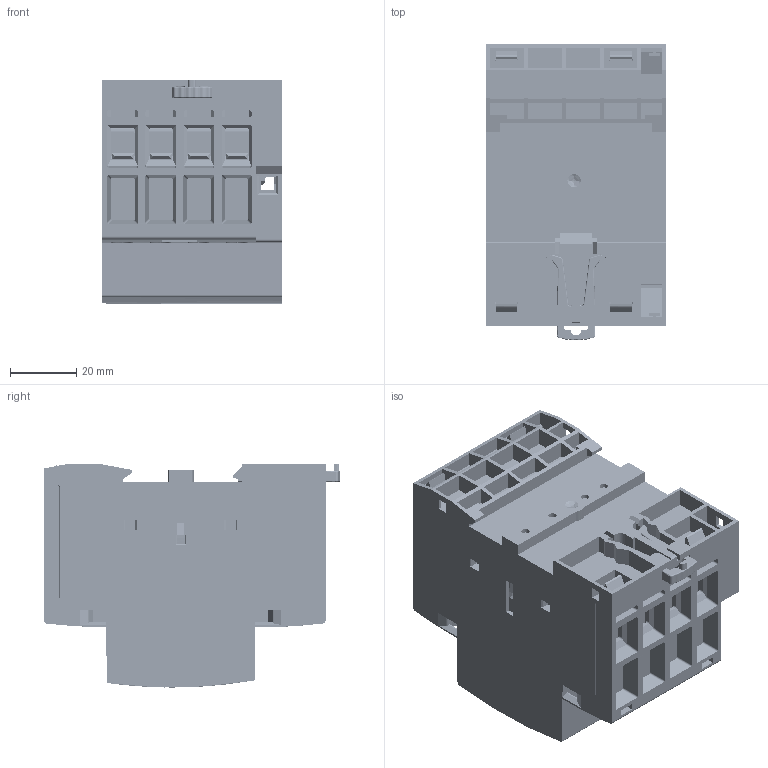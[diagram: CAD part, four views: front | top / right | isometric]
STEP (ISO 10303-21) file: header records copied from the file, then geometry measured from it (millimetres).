
FILE_DESCRIPTION (( 'STEP AP203' ), '1' );
FILE_NAME ('YCCH6-40-63-4P.STEP', '2025-07-31T01:10:10', ( '' ), ( '' ), 'SwSTEP 2.0', 'SolidWorks 2021', '' );
FILE_SCHEMA (( 'CONFIG_CONTROL_DESIGN' ));
Length unit declared in the file: millimetre
Products named in the file (24): 63.stp; 8BJ-110-701_______10_2.stp; 5BJ-110-601-_________AF1_45_ASM.stp; 8BJ-110-701_______10_1.stp; 5BJ-110-601-_________AF0_45_ASM.stp; 8BJ-550-701________24-172085.stp; 8BJ-907-601____16A-10_3.stp; YCCH6-40-63-4P; 8BJ-110-701_______10_ASM.stp; 8BJ-750-701-______40-_13.stp; 2BJ-401-702-_______ASM_154_ASM.stp; 8BJ-401-601____16-10_1.stp; 8BJ-024-702___50.stp; 5BJ-615-704________63A_69_ASM.stp; 8BJ-907-701-____40-6_8.stp; 8BJ-140-701_____4.stp; 8BJ-110-601______16-1_11.stp; 8BJ-550-701________24-173419.stp; ________63A_56_ASM.stp; 8BJ-557-701______40-_11.stp; 5JB-110-701_________15_ASM.stp; 8BJ-104-702_____15.stp; 5BJ-550-701-________14_ASM.stp; 8BJ-315-702-_______51.stp
Assembly tree (39 placements, depth 6):
  YCCH6-40-63-4P
    63.stp
      2BJ-401-702-_______ASM_154_ASM.stp
        5BJ-615-704________63A_69_ASM.stp
          8BJ-104-702_____15.stp
        5BJ-550-701-________14_ASM.stp  x8
          8BJ-557-701______40-_11.stp
          8BJ-550-701________24-172085.stp
          8BJ-550-701________24-173419.stp
        5JB-110-701_________15_ASM.stp  x8
          8BJ-110-701_______10_ASM.stp
            8BJ-110-701_______10_1.stp
            8BJ-110-701_______10_2.stp
          8BJ-907-701-____40-6_8.stp
          8BJ-750-701-______40-_13.stp
        ________63A_56_ASM.stp
          5BJ-110-601-_________AF0_45_ASM.stp
            8BJ-907-601____16A-10_3.stp
            8BJ-110-601______16-1_11.stp
          5BJ-110-601-_________AF1_45_ASM.stp
            8BJ-907-601____16A-10_3.stp
            8BJ-110-601______16-1_11.stp
        8BJ-024-702___50.stp
        8BJ-315-702-_______51.stp
        8BJ-401-601____16-10_1.stp
        8BJ-140-701_____4.stp
Bounding box: 54.1 x 89.43 x 67.83 mm (x, y, z)
Volume: 106327 mm3; surface area: 131449.8 mm2
Topology: 65 solids, 65 shells, 6837 faces, 18965 edges, 12269 vertices
Faces by surface type: plane 4748, cylinder 1240, bspline 436, cone 234, torus 175, sphere 4
Entity records: 158881 total; most frequent: CARTESIAN_POINT 53195, ORIENTED_EDGE 23148, DIRECTION 18655, EDGE_CURVE 11574, VECTOR 8635, LINE 8635, VERTEX_POINT 7572, AXIS2_PLACEMENT_3D 5010
